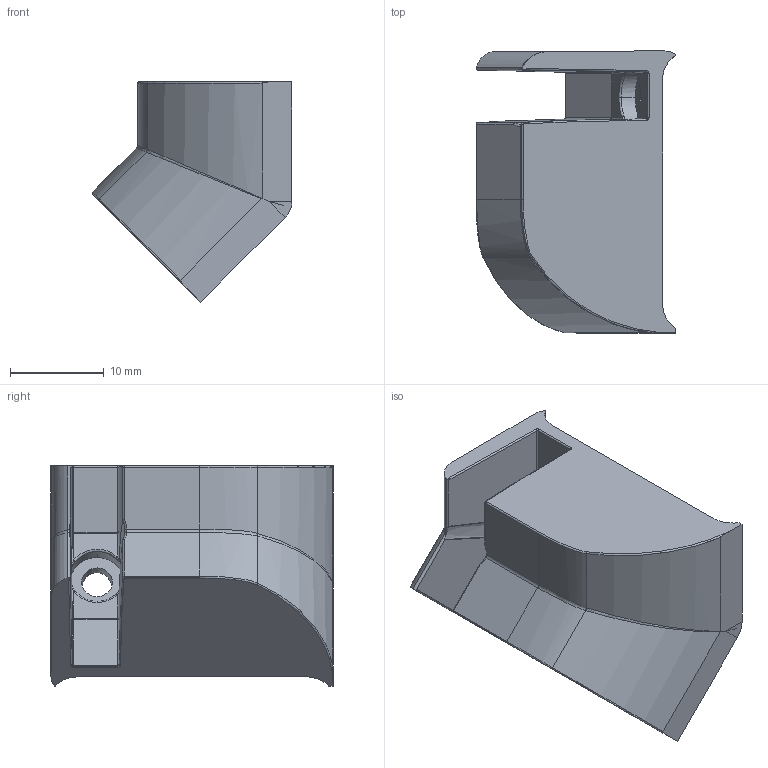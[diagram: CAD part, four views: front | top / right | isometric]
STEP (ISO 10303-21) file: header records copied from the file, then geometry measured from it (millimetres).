
FILE_DESCRIPTION (( 'STEP AP203' ), '1' );
FILE_NAME ('013.030.124.STEP', '2020-09-21T07:06:23', ( '' ), ( '' ), 'SwSTEP 2.0', 'SolidWorks 2018', '' );
FILE_SCHEMA (( 'CONFIG_CONTROL_DESIGN' ));
Length unit declared in the file: millimetre
Products named in the file (1): 013.030.124
Bounding box: 21.25 x 30.01 x 23.44 mm (x, y, z)
Volume: 3171.6 mm3; surface area: 3656.3 mm2
Topology: 1 solids, 1 shells, 171 faces, 413 edges, 235 vertices
Faces by surface type: cylinder 61, bspline 43, plane 35, torus 20, cone 8, sphere 4
Entity records: 5860 total; most frequent: CARTESIAN_POINT 2196, ORIENTED_EDGE 810, DIRECTION 700, EDGE_CURVE 405, AXIS2_PLACEMENT_3D 273, VERTEX_POINT 235, EDGE_LOOP 172, ADVANCED_FACE 171
